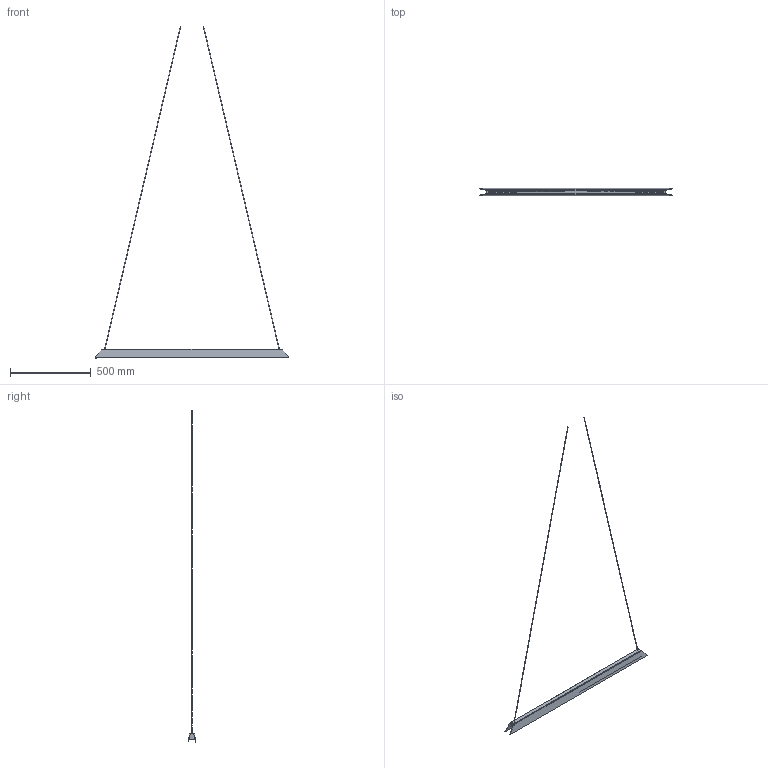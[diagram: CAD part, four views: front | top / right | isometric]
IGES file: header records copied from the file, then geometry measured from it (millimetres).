
Global section: file name: /Users/064_p/Desktop/3d data_02/ILKW_TRYANGLE120_C_Pendant_3D.igs; native system: Rhinoceros ( Jul  7 2025 ); preprocessor: Trout Lake IGES 012 Jul  7 2025; date: 260828.090136; units: millimetre
Bounding box: 1200 x 47.87 x 2054.48 mm (x, y, z)
Surface area: 475333.5 mm2 (no closed solid volume)
Topology: 0 solids, 0 shells, 78 faces, 360 edges, 360 vertices
Faces by surface type: bspline 78
